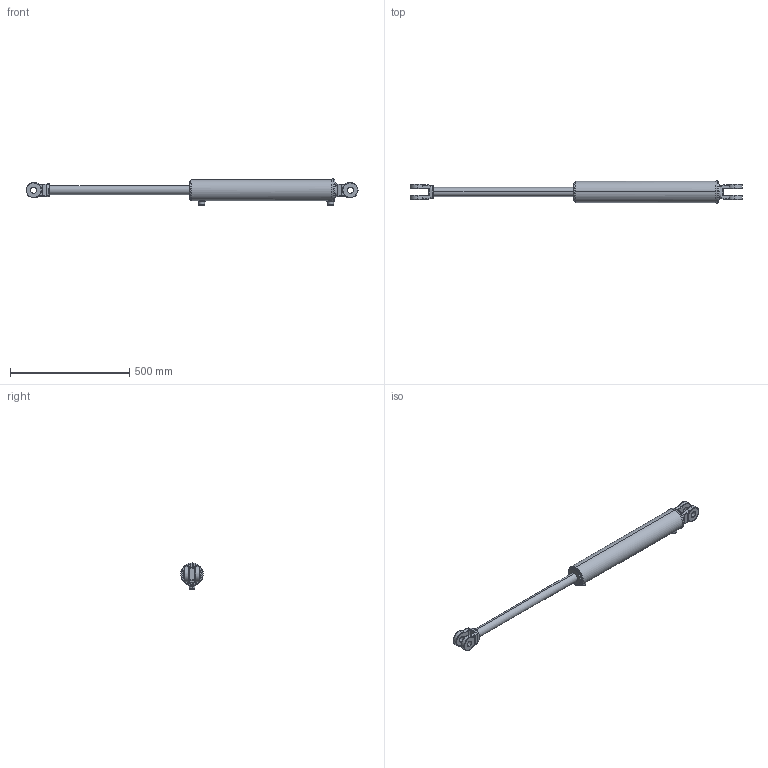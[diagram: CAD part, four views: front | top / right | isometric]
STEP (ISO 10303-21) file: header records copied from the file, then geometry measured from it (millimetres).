
FILE_DESCRIPTION (( 'STEP AP203' ), '1' );
FILE_NAME ('CL-CL300150x508 (20) extended.STEP', '2014-11-21T23:31:48', ( '' ), ( '' ), 'SwSTEP 2.0', 'SolidWorks 2014', '' );
FILE_SCHEMA (( 'CONFIG_CONTROL_DESIGN' ));
Length unit declared in the file: millimetre
Products named in the file (4): CL-CL300150x  body_3x20; 3 in ext circlip; SPARE 6_20x1.5; CL-CL300150x508 (20) extended
Assembly tree (3 placements, depth 2):
  CL-CL300150x508 (20) extended
    CL-CL300150x  body_3x20
    3 in ext circlip
    SPARE 6_20x1.5
Bounding box: 1390.39 x 94.87 x 109.9 mm (x, y, z)
Volume: 4283564.2 mm3; surface area: 383871.1 mm2
Topology: 3 solids, 3 shells, 212 faces, 515 edges, 316 vertices
Faces by surface type: cylinder 92, bspline 61, plane 37, torus 14, cone 8
Entity records: 11771 total; most frequent: CARTESIAN_POINT 6695, ORIENTED_EDGE 1022, DIRECTION 943, EDGE_CURVE 511, AXIS2_PLACEMENT_3D 393, VERTEX_POINT 316, CIRCLE 236, EDGE_LOOP 235
